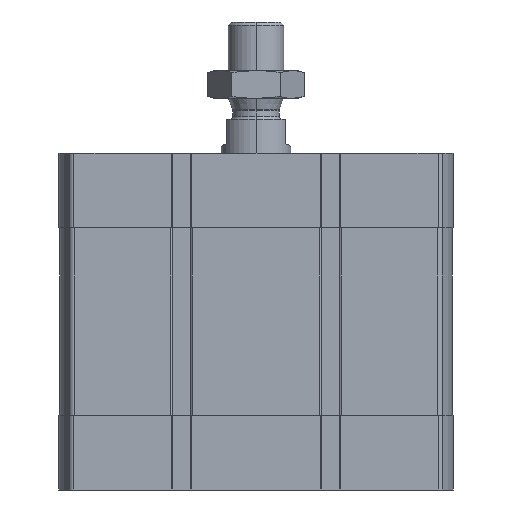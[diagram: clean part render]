
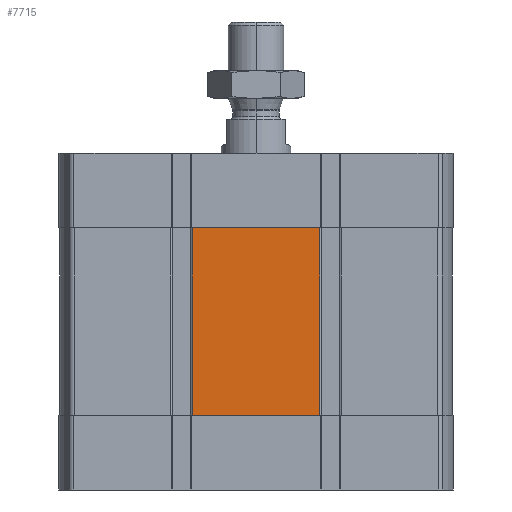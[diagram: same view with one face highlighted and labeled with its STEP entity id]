
A CAD part, left-side view. The second image highlights one B-rep face of the part: STEP entity #7715.
In plain terms, the highlighted planar face has unit normal (-1, 0, 0).
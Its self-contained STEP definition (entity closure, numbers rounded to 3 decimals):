
#1199 = VECTOR ( 'NONE', #14701, 1000. ) ;
#1551 = DIRECTION ( 'NONE',  ( 0., 0., 1. ) ) ;
#2801 = LINE ( 'NONE', #19120, #4421 ) ;
#2808 = EDGE_CURVE ( 'NONE', #19931, #6409, #9736, .T. ) ;
#2847 = EDGE_CURVE ( 'NONE', #11844, #3475, #4607, .T. ) ;
#2920 = CARTESIAN_POINT ( 'NONE',  ( -56.5, -18.345, -21.5 ) ) ;
#3140 = ORIENTED_EDGE ( 'NONE', *, *, #6822, .F. ) ;
#3168 = LINE ( 'NONE', #9697, #18403 ) ;
#3470 = ORIENTED_EDGE ( 'NONE', *, *, #2847, .F. ) ;
#3475 = VERTEX_POINT ( 'NONE', #2920 ) ;
#4421 = VECTOR ( 'NONE', #7932, 1000. ) ;
#4607 = LINE ( 'NONE', #11569, #18365 ) ;
#6073 = AXIS2_PLACEMENT_3D ( 'NONE', #13024, #19263, #19478 ) ;
#6409 = VERTEX_POINT ( 'NONE', #16204 ) ;
#6822 = EDGE_CURVE ( 'NONE', #19931, #11844, #3168, .T. ) ;
#7715 = ADVANCED_FACE ( 'NONE', ( #9674 ), #11395, .T. ) ;
#7932 = DIRECTION ( 'NONE',  ( 0., 0., 1. ) ) ;
#8027 = CARTESIAN_POINT ( 'NONE',  ( -56.5, 18.345, -75.5 ) ) ;
#8272 = EDGE_LOOP ( 'NONE', ( #3470, #3140, #14200, #14513 ) ) ;
#9674 = FACE_OUTER_BOUND ( 'NONE', #8272, .T. ) ;
#9697 = CARTESIAN_POINT ( 'NONE',  ( -56.5, 18.345, -75.5 ) ) ;
#9736 = LINE ( 'NONE', #8027, #1199 ) ;
#10158 = DIRECTION ( 'NONE',  ( 0., -1., 0. ) ) ;
#10641 = EDGE_CURVE ( 'NONE', #6409, #3475, #2801, .T. ) ;
#10939 = CARTESIAN_POINT ( 'NONE',  ( -56.5, 18.345, -21.5 ) ) ;
#11395 = PLANE ( 'NONE',  #6073 ) ;
#11569 = CARTESIAN_POINT ( 'NONE',  ( -56.5, 18.345, -21.5 ) ) ;
#11844 = VERTEX_POINT ( 'NONE', #10939 ) ;
#13024 = CARTESIAN_POINT ( 'NONE',  ( -56.5, 18.345, -75.5 ) ) ;
#13098 = CARTESIAN_POINT ( 'NONE',  ( -56.5, 18.345, -75.5 ) ) ;
#14200 = ORIENTED_EDGE ( 'NONE', *, *, #2808, .T. ) ;
#14513 = ORIENTED_EDGE ( 'NONE', *, *, #10641, .T. ) ;
#14701 = DIRECTION ( 'NONE',  ( 0., -1., 0. ) ) ;
#16204 = CARTESIAN_POINT ( 'NONE',  ( -56.5, -18.345, -75.5 ) ) ;
#18365 = VECTOR ( 'NONE', #10158, 1000. ) ;
#18403 = VECTOR ( 'NONE', #1551, 1000. ) ;
#19120 = CARTESIAN_POINT ( 'NONE',  ( -56.5, -18.345, -75.5 ) ) ;
#19263 = DIRECTION ( 'NONE',  ( -1., 0., 0. ) ) ;
#19478 = DIRECTION ( 'NONE',  ( 0., 0., 1. ) ) ;
#19931 = VERTEX_POINT ( 'NONE', #13098 ) ;
